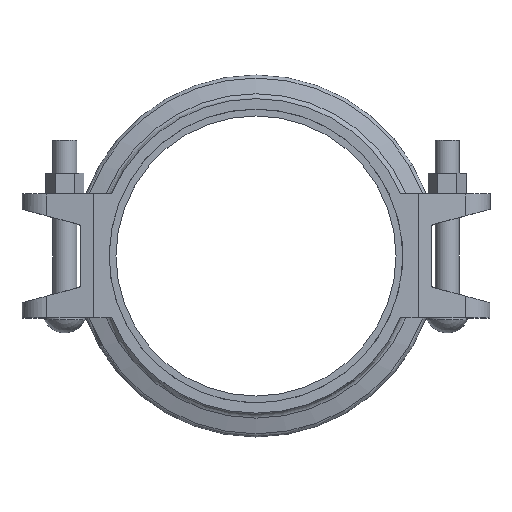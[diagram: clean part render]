
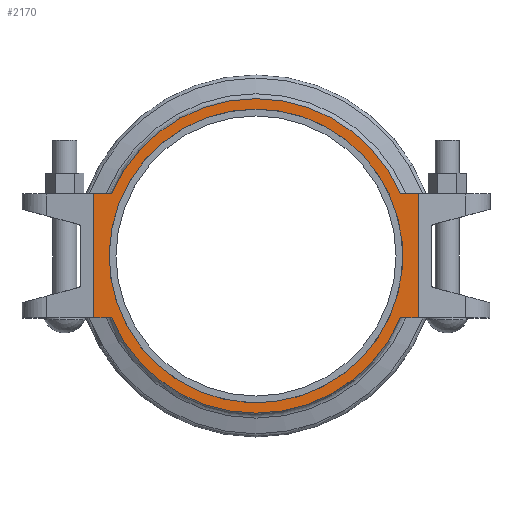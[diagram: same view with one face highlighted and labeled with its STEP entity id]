
A CAD part, top view. The second image highlights one B-rep face of the part: STEP entity #2170.
In plain terms, the highlighted planar face has unit normal (0, 0, 1).
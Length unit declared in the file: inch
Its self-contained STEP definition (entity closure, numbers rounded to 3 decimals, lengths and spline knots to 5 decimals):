
#112=FACE_BOUND('',#324,.T.);
#144=PLANE('',#2377);
#204=FACE_OUTER_BOUND('',#323,.T.);
#323=EDGE_LOOP('',(#1513,#1514,#1515,#1516,#1517,#1518,#1519,#1520));
#324=EDGE_LOOP('',(#1521,#1522));
#468=LINE('',#3351,#633);
#469=LINE('',#3353,#634);
#470=LINE('',#3355,#635);
#471=LINE('',#3359,#636);
#472=LINE('',#3361,#637);
#473=LINE('',#3362,#638);
#633=VECTOR('',#2739,0.3937);
#634=VECTOR('',#2740,0.3937);
#635=VECTOR('',#2741,0.3937);
#636=VECTOR('',#2744,0.3937);
#637=VECTOR('',#2745,0.3937);
#638=VECTOR('',#2746,0.3937);
#748=CIRCLE('',#2311,5.375);
#749=CIRCLE('',#2312,5.375);
#786=CIRCLE('',#2378,5.755);
#787=CIRCLE('',#2379,5.755);
#834=VERTEX_POINT('',#3155);
#835=VERTEX_POINT('',#3157);
#904=VERTEX_POINT('',#3347);
#905=VERTEX_POINT('',#3348);
#906=VERTEX_POINT('',#3350);
#907=VERTEX_POINT('',#3352);
#908=VERTEX_POINT('',#3354);
#909=VERTEX_POINT('',#3356);
#910=VERTEX_POINT('',#3358);
#911=VERTEX_POINT('',#3360);
#1050=EDGE_CURVE('',#835,#834,#748,.T.);
#1051=EDGE_CURVE('',#834,#835,#749,.T.);
#1142=EDGE_CURVE('',#904,#905,#786,.T.);
#1143=EDGE_CURVE('',#906,#904,#468,.T.);
#1144=EDGE_CURVE('',#906,#907,#469,.T.);
#1145=EDGE_CURVE('',#908,#907,#470,.T.);
#1146=EDGE_CURVE('',#909,#908,#787,.T.);
#1147=EDGE_CURVE('',#910,#909,#471,.T.);
#1148=EDGE_CURVE('',#911,#910,#472,.T.);
#1149=EDGE_CURVE('',#905,#911,#473,.T.);
#1513=ORIENTED_EDGE('',*,*,#1142,.F.);
#1514=ORIENTED_EDGE('',*,*,#1143,.F.);
#1515=ORIENTED_EDGE('',*,*,#1144,.T.);
#1516=ORIENTED_EDGE('',*,*,#1145,.F.);
#1517=ORIENTED_EDGE('',*,*,#1146,.F.);
#1518=ORIENTED_EDGE('',*,*,#1147,.F.);
#1519=ORIENTED_EDGE('',*,*,#1148,.F.);
#1520=ORIENTED_EDGE('',*,*,#1149,.F.);
#1521=ORIENTED_EDGE('',*,*,#1050,.T.);
#1522=ORIENTED_EDGE('',*,*,#1051,.T.);
#2170=ADVANCED_FACE('',(#204,#112),#144,.T.);
#2311=AXIS2_PLACEMENT_3D('',#3158,#2549,#2550);
#2312=AXIS2_PLACEMENT_3D('',#3159,#2551,#2552);
#2377=AXIS2_PLACEMENT_3D('',#3346,#2735,#2736);
#2378=AXIS2_PLACEMENT_3D('',#3349,#2737,#2738);
#2379=AXIS2_PLACEMENT_3D('',#3357,#2742,#2743);
#2549=DIRECTION('center_axis',(0.,0.,-1.));
#2550=DIRECTION('ref_axis',(1.,0.,0.));
#2551=DIRECTION('center_axis',(0.,0.,-1.));
#2552=DIRECTION('ref_axis',(1.,0.,0.));
#2735=DIRECTION('center_axis',(0.,0.,1.));
#2736=DIRECTION('ref_axis',(1.,0.,0.));
#2737=DIRECTION('center_axis',(0.,0.,-1.));
#2738=DIRECTION('ref_axis',(1.,0.,0.));
#2739=DIRECTION('',(1.,0.,0.));
#2740=DIRECTION('',(0.,-1.,0.));
#2741=DIRECTION('',(-1.,0.,0.));
#2742=DIRECTION('center_axis',(0.,0.,-1.));
#2743=DIRECTION('ref_axis',(1.,0.,0.));
#2744=DIRECTION('',(-1.,0.,0.));
#2745=DIRECTION('',(0.,-1.,0.));
#2746=DIRECTION('',(1.,0.,0.));
#3155=CARTESIAN_POINT('',(0.,-5.375,1.375));
#3157=CARTESIAN_POINT('',(-4.87214,-2.27,1.375));
#3158=CARTESIAN_POINT('Origin',(0.,0.,1.375));
#3159=CARTESIAN_POINT('Origin',(0.,0.,1.375));
#3346=CARTESIAN_POINT('Origin',(0.,5.755,1.375));
#3347=CARTESIAN_POINT('',(-5.2884,2.27,1.375));
#3348=CARTESIAN_POINT('',(5.2884,2.27,1.375));
#3349=CARTESIAN_POINT('Origin',(0.,0.,1.375));
#3350=CARTESIAN_POINT('',(-5.94,2.27,1.375));
#3351=CARTESIAN_POINT('',(5.94,2.27,1.375));
#3352=CARTESIAN_POINT('',(-5.94,-2.27,1.375));
#3353=CARTESIAN_POINT('',(-5.94,0.,1.375));
#3354=CARTESIAN_POINT('',(-5.2884,-2.27,1.375));
#3355=CARTESIAN_POINT('',(5.94,-2.27,1.375));
#3356=CARTESIAN_POINT('',(5.2884,-2.27,1.375));
#3357=CARTESIAN_POINT('Origin',(0.,0.,1.375));
#3358=CARTESIAN_POINT('',(5.94,-2.27,1.375));
#3359=CARTESIAN_POINT('',(5.94,-2.27,1.375));
#3360=CARTESIAN_POINT('',(5.94,2.27,1.375));
#3361=CARTESIAN_POINT('',(5.94,0.,1.375));
#3362=CARTESIAN_POINT('',(5.94,2.27,1.375));
